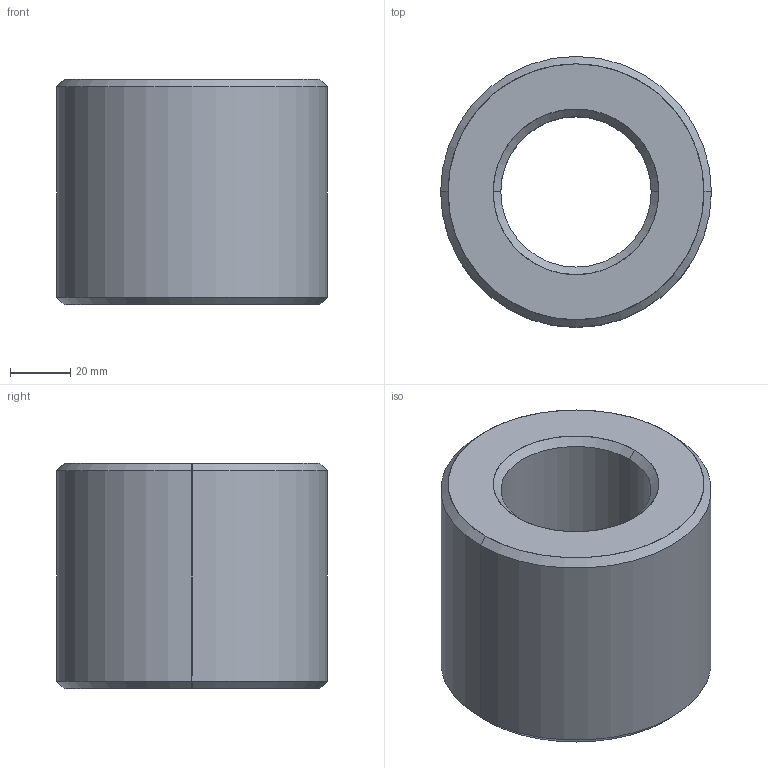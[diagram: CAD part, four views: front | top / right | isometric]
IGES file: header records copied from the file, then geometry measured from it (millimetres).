
Start section: SolidWorks IGES file using analytic representation for surfaces
Global section: file name: C:\Users\ianosborn\Desktop\L1339_v2\L1339_v2_20241024_IGES\L1339.L50-08.igs; native system: SolidWorks 2019; preprocessor: SolidWorks 2019; author: IanOsborn; date: 241024.150714; units: millimetre
Bounding box: 90 x 90 x 75 mm (x, y, z)
Surface area: 40495 mm2 (no closed solid volume)
Topology: 0 solids, 0 shells, 14 faces, 304 edges, 304 vertices
Faces by surface type: revolution 12, bspline 2
